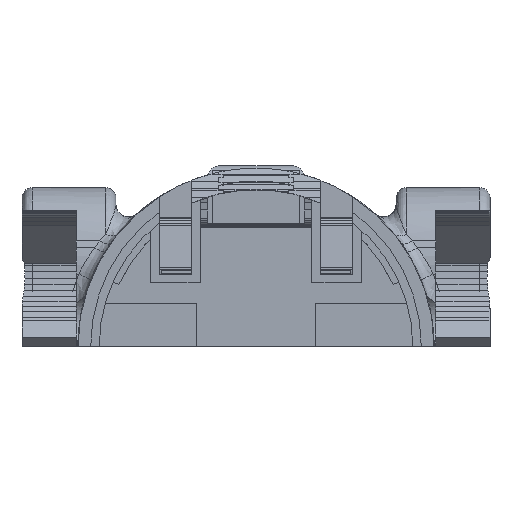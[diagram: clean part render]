
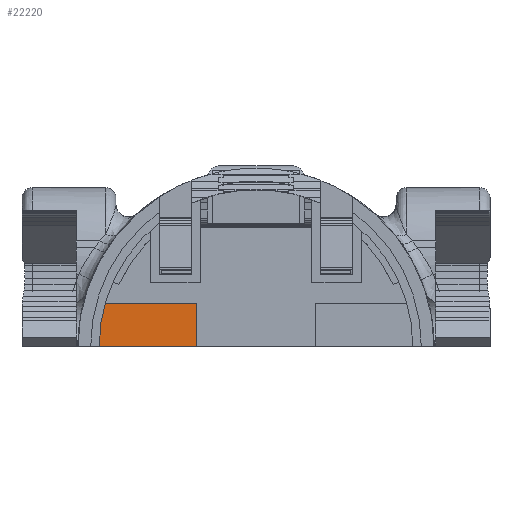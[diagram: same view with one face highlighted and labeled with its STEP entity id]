
A CAD part, left-side view. The second image highlights one B-rep face of the part: STEP entity #22220.
In plain terms, the highlighted planar face has unit normal (-1, 0, 0).
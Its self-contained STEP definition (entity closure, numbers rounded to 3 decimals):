
#3040 = PLANE('',#3041);
#3041 = AXIS2_PLACEMENT_3D('',#3042,#3043,#3044);
#3042 = CARTESIAN_POINT('',(-10.,-60.,0.));
#3043 = DIRECTION('',(0.,0.,1.));
#3044 = DIRECTION('',(1.,0.,-0.));
#5705 = CYLINDRICAL_SURFACE('',#5706,19.5);
#5706 = AXIS2_PLACEMENT_3D('',#5707,#5708,#5709);
#5707 = CARTESIAN_POINT('',(19.,0.,0.));
#5708 = DIRECTION('',(1.,0.,0.));
#5709 = DIRECTION('',(0.,0.,-1.));
#7856 = VERTEX_POINT('',#7857);
#7857 = CARTESIAN_POINT('',(142.45,19.5,0.));
#7877 = EDGE_CURVE('',#7856,#7878,#7880,.T.);
#7878 = VERTEX_POINT('',#7879);
#7879 = CARTESIAN_POINT('',(142.45,7.,0.));
#7880 = SURFACE_CURVE('',#7881,(#7885,#7892),.PCURVE_S1.);
#7881 = LINE('',#7882,#7883);
#7882 = CARTESIAN_POINT('',(142.45,-26.5,0.));
#7883 = VECTOR('',#7884,1.);
#7884 = DIRECTION('',(0.,-1.,0.));
#7885 = PCURVE('',#3040,#7886);
#7886 = DEFINITIONAL_REPRESENTATION('',(#7887),#7891);
#7887 = LINE('',#7888,#7889);
#7888 = CARTESIAN_POINT('',(152.45,33.5));
#7889 = VECTOR('',#7890,1.);
#7890 = DIRECTION('',(0.,-1.));
#7891 = ( GEOMETRIC_REPRESENTATION_CONTEXT(2) 
PARAMETRIC_REPRESENTATION_CONTEXT() REPRESENTATION_CONTEXT('2D SPACE',''
  ) );
#7892 = PCURVE('',#7893,#7898);
#7893 = PLANE('',#7894);
#7894 = AXIS2_PLACEMENT_3D('',#7895,#7896,#7897);
#7895 = CARTESIAN_POINT('',(142.45,7.,-5.1));
#7896 = DIRECTION('',(1.,0.,-0.));
#7897 = DIRECTION('',(0.,0.,1.));
#7898 = DEFINITIONAL_REPRESENTATION('',(#7899),#7902);
#7899 = B_SPLINE_CURVE_WITH_KNOTS('',1,(#7900,#7901),.UNSPECIFIED.,.F.,
  .F.,(2,2),(-46.,-33.5),.PIECEWISE_BEZIER_KNOTS.);
#7900 = CARTESIAN_POINT('',(5.1,-12.5));
#7901 = CARTESIAN_POINT('',(5.1,0.));
#7902 = ( GEOMETRIC_REPRESENTATION_CONTEXT(2) 
PARAMETRIC_REPRESENTATION_CONTEXT() REPRESENTATION_CONTEXT('2D SPACE',''
  ) );
#7920 = PLANE('',#7921);
#7921 = AXIS2_PLACEMENT_3D('',#7922,#7923,#7924);
#7922 = CARTESIAN_POINT('',(142.45,7.,-5.1));
#7923 = DIRECTION('',(-0.,1.,0.));
#7924 = DIRECTION('',(0.,0.,1.));
#16821 = EDGE_CURVE('',#7856,#16822,#16824,.T.);
#16822 = VERTEX_POINT('',#16823);
#16823 = CARTESIAN_POINT('',(142.45,18.821,5.1));
#16824 = SURFACE_CURVE('',#16825,(#16830,#16836),.PCURVE_S1.);
#16825 = CIRCLE('',#16826,19.5);
#16826 = AXIS2_PLACEMENT_3D('',#16827,#16828,#16829);
#16827 = CARTESIAN_POINT('',(142.45,0.,0.));
#16828 = DIRECTION('',(1.,0.,0.));
#16829 = DIRECTION('',(0.,0.,-1.));
#16830 = PCURVE('',#5705,#16831);
#16831 = DEFINITIONAL_REPRESENTATION('',(#16832),#16835);
#16832 = B_SPLINE_CURVE_WITH_KNOTS('',1,(#16833,#16834),.UNSPECIFIED.,
  .F.,.F.,(2,2),(1.306,1.835),
  .PIECEWISE_BEZIER_KNOTS.);
#16833 = CARTESIAN_POINT('',(7.589,123.45));
#16834 = CARTESIAN_POINT('',(8.119,123.45));
#16835 = ( GEOMETRIC_REPRESENTATION_CONTEXT(2) 
PARAMETRIC_REPRESENTATION_CONTEXT() REPRESENTATION_CONTEXT('2D SPACE',''
  ) );
#16836 = PCURVE('',#7893,#16837);
#16837 = DEFINITIONAL_REPRESENTATION('',(#16838),#16842);
#16838 = CIRCLE('',#16839,19.5);
#16839 = AXIS2_PLACEMENT_2D('',#16840,#16841);
#16840 = CARTESIAN_POINT('',(5.1,7.));
#16841 = DIRECTION('',(-1.,0.));
#16842 = ( GEOMETRIC_REPRESENTATION_CONTEXT(2) 
PARAMETRIC_REPRESENTATION_CONTEXT() REPRESENTATION_CONTEXT('2D SPACE',''
  ) );
#19966 = PLANE('',#19967);
#19967 = AXIS2_PLACEMENT_3D('',#19968,#19969,#19970);
#19968 = CARTESIAN_POINT('',(142.45,7.,5.1));
#19969 = DIRECTION('',(0.,0.,1.));
#19970 = DIRECTION('',(1.,0.,-0.));
#22092 = EDGE_CURVE('',#7878,#22093,#22095,.T.);
#22093 = VERTEX_POINT('',#22094);
#22094 = CARTESIAN_POINT('',(142.45,7.,5.1));
#22095 = SURFACE_CURVE('',#22096,(#22100,#22107),.PCURVE_S1.);
#22096 = LINE('',#22097,#22098);
#22097 = CARTESIAN_POINT('',(142.45,7.,-5.1));
#22098 = VECTOR('',#22099,1.);
#22099 = DIRECTION('',(0.,0.,1.));
#22100 = PCURVE('',#7920,#22101);
#22101 = DEFINITIONAL_REPRESENTATION('',(#22102),#22106);
#22102 = LINE('',#22103,#22104);
#22103 = CARTESIAN_POINT('',(0.,0.));
#22104 = VECTOR('',#22105,1.);
#22105 = DIRECTION('',(1.,0.));
#22106 = ( GEOMETRIC_REPRESENTATION_CONTEXT(2) 
PARAMETRIC_REPRESENTATION_CONTEXT() REPRESENTATION_CONTEXT('2D SPACE',''
  ) );
#22107 = PCURVE('',#7893,#22108);
#22108 = DEFINITIONAL_REPRESENTATION('',(#22109),#22113);
#22109 = LINE('',#22110,#22111);
#22110 = CARTESIAN_POINT('',(0.,0.));
#22111 = VECTOR('',#22112,1.);
#22112 = DIRECTION('',(1.,0.));
#22113 = ( GEOMETRIC_REPRESENTATION_CONTEXT(2) 
PARAMETRIC_REPRESENTATION_CONTEXT() REPRESENTATION_CONTEXT('2D SPACE',''
  ) );
#22220 = ADVANCED_FACE('',(#22221),#7893,.F.);
#22221 = FACE_BOUND('',#22222,.F.);
#22222 = EDGE_LOOP('',(#22223,#22244,#22245,#22246));
#22223 = ORIENTED_EDGE('',*,*,#22224,.F.);
#22224 = EDGE_CURVE('',#22093,#16822,#22225,.T.);
#22225 = SURFACE_CURVE('',#22226,(#22230,#22237),.PCURVE_S1.);
#22226 = LINE('',#22227,#22228);
#22227 = CARTESIAN_POINT('',(142.45,7.,5.1));
#22228 = VECTOR('',#22229,1.);
#22229 = DIRECTION('',(-0.,1.,0.));
#22230 = PCURVE('',#7893,#22231);
#22231 = DEFINITIONAL_REPRESENTATION('',(#22232),#22236);
#22232 = LINE('',#22233,#22234);
#22233 = CARTESIAN_POINT('',(10.2,0.));
#22234 = VECTOR('',#22235,1.);
#22235 = DIRECTION('',(0.,-1.));
#22236 = ( GEOMETRIC_REPRESENTATION_CONTEXT(2) 
PARAMETRIC_REPRESENTATION_CONTEXT() REPRESENTATION_CONTEXT('2D SPACE',''
  ) );
#22237 = PCURVE('',#19966,#22238);
#22238 = DEFINITIONAL_REPRESENTATION('',(#22239),#22243);
#22239 = LINE('',#22240,#22241);
#22240 = CARTESIAN_POINT('',(0.,0.));
#22241 = VECTOR('',#22242,1.);
#22242 = DIRECTION('',(0.,1.));
#22243 = ( GEOMETRIC_REPRESENTATION_CONTEXT(2) 
PARAMETRIC_REPRESENTATION_CONTEXT() REPRESENTATION_CONTEXT('2D SPACE',''
  ) );
#22244 = ORIENTED_EDGE('',*,*,#22092,.F.);
#22245 = ORIENTED_EDGE('',*,*,#7877,.F.);
#22246 = ORIENTED_EDGE('',*,*,#16821,.T.);
